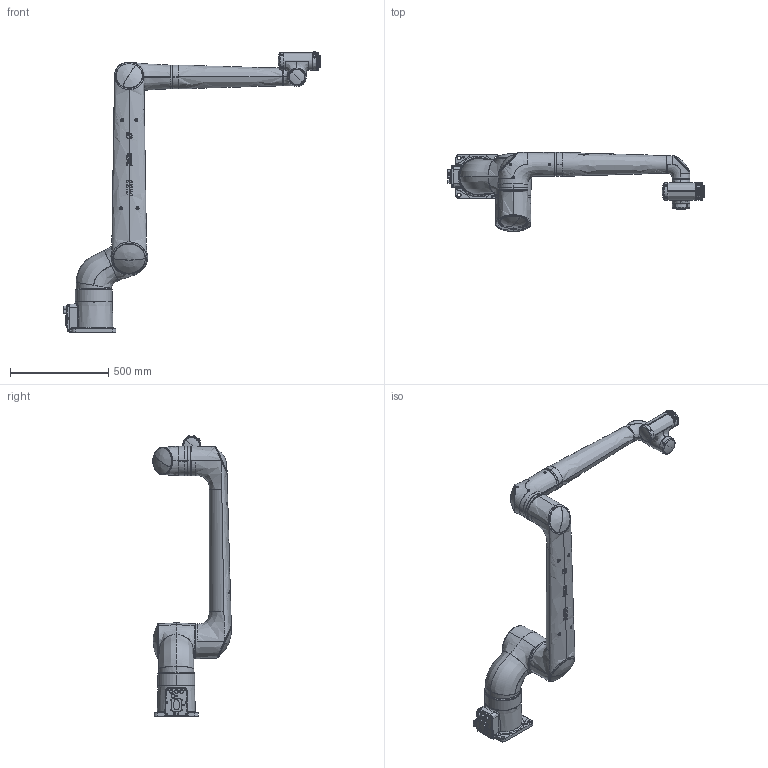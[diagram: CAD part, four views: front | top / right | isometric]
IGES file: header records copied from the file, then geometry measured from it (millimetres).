
Start section: SolidWorks IGES file using analytic representation for surfaces
Global section: file name: C:\TFS_Workspace\Manipulators\Leandro\02_Design\02_CAD\09_RSModel\L line\20260303\Website\IGES\CRB1920_16kg-1960_OmniCore_rev00_IGES\CRB1920_16kg-1960_OmniCore_rev00_Assembly.igs; native system: SolidWorks 2022; preprocessor: SolidWorks 2022; author: CNXILI49; date: 260416.135829; units: millimetre
Bounding box: 1311 x 402.1 x 1431.6 mm (x, y, z)
Surface area: 1662308.9 mm2 (no closed solid volume)
Topology: 0 solids, 0 shells, 2477 faces, 33265 edges, 33216 vertices
Faces by surface type: bspline 1849, revolution 628
